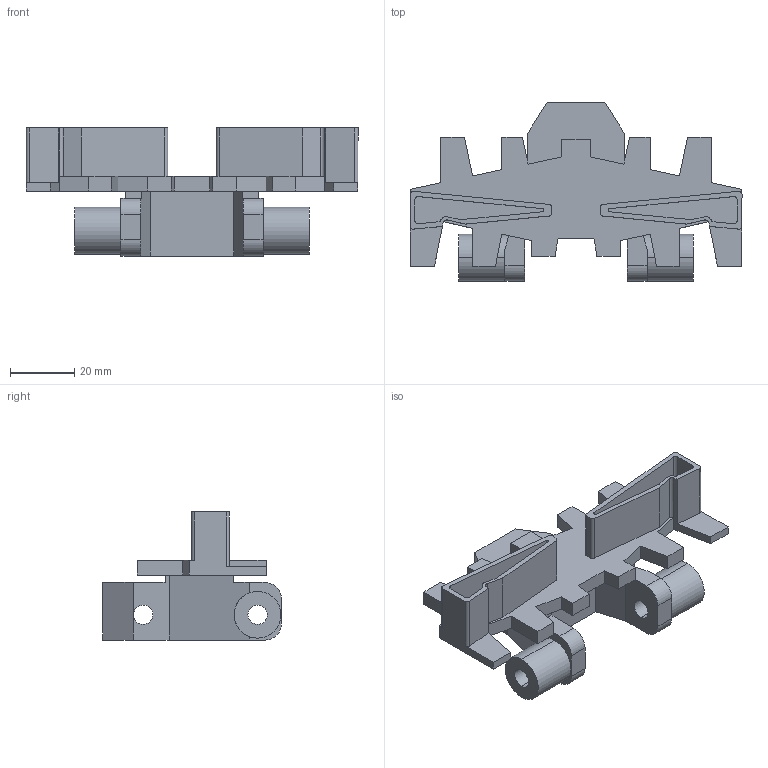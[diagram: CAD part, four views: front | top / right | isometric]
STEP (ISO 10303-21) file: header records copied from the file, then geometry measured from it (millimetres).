
FILE_DESCRIPTION (( 'STEP AP214' ), '1' );
FILE_NAME ('FABER - FCCT 5A15.step', '2017-04-05T06:03:16', ( '' ), ( '' ), 'SwSTEP 2.0', 'SolidWorks 2016', '' );
FILE_SCHEMA (( 'AUTOMOTIVE_DESIGN' ));
Length unit declared in the file: millimetre
Products named in the file (1): FABER - FCCT 5A15
Bounding box: 103 x 55.39 x 39.75 mm (x, y, z)
Volume: 42072.4 mm3; surface area: 21192.8 mm2
Topology: 1 solids, 1 shells, 136 faces, 393 edges, 262 vertices
Faces by surface type: plane 99, cylinder 37
Entity records: 4501 total; most frequent: CARTESIAN_POINT 798, ORIENTED_EDGE 786, DIRECTION 743, EDGE_CURVE 393, VECTOR 313, LINE 313, VERTEX_POINT 262, AXIS2_PLACEMENT_3D 215
